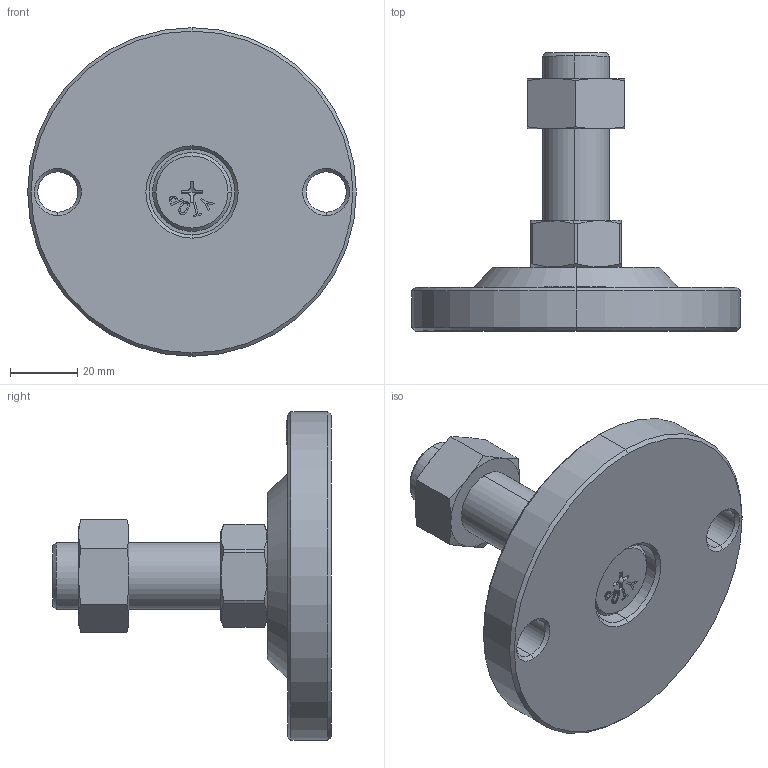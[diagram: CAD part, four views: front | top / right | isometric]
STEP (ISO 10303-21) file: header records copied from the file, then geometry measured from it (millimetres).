
FILE_DESCRIPTION (( 'STEP AP203' ), '1' );
FILE_NAME ('KL-100-2050-P.STEP', '2020-09-10T02:29:15', ( '' ), ( '' ), 'SwSTEP 2.0', 'SolidWorks 2016', '' );
FILE_SCHEMA (( 'CONFIG_CONTROL_DESIGN' ));
Length unit declared in the file: millimetre
Products named in the file (5): KL-100-2050-P; 螺丝平底十字带商标M10系列_M10X14; 脚垫调节六角螺母M20; 眻芛蹟邡M20炵蹈_M20X50; KL-100-0.1 KL100菁釱
Assembly tree (4 placements, depth 2):
  KL-100-2050-P
    KL-100-0.1 KL100菁釱
    眻芛蹟邡M20炵蹈_M20X50
    脚垫调节六角螺母M20
    螺丝平底十字带商标M10系列_M10X14
Bounding box: 98 x 83 x 98 mm (x, y, z)
Volume: 137789.2 mm3; surface area: 31442.5 mm2
Topology: 4 solids, 4 shells, 211 faces, 514 edges, 326 vertices
Faces by surface type: plane 101, cone 54, cylinder 32, bspline 24
Entity records: 8435 total; most frequent: CARTESIAN_POINT 3158, ORIENTED_EDGE 1020, DIRECTION 902, EDGE_CURVE 510, VERTEX_POINT 326, AXIS2_PLACEMENT_3D 306, LINE 290, VECTOR 290
